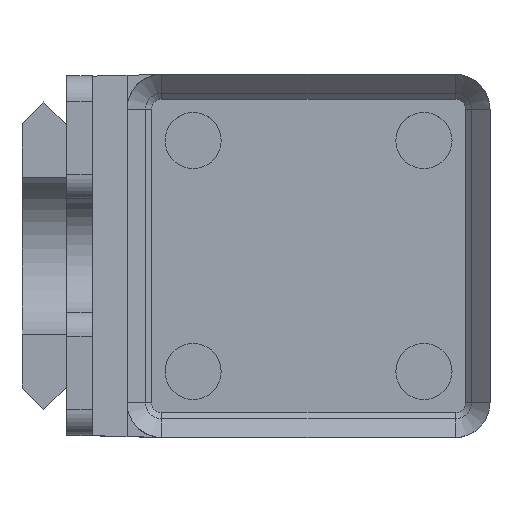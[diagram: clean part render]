
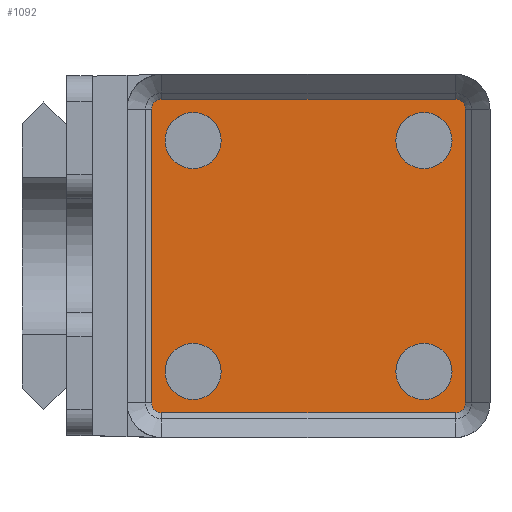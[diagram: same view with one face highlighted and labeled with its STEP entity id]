
A CAD part, top view. The second image highlights one B-rep face of the part: STEP entity #1092.
In plain terms, the highlighted planar face has unit normal (0, 0, 1).
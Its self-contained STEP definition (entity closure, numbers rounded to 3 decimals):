
#23=FACE_BOUND('',#151,.T.);
#24=FACE_BOUND('',#152,.T.);
#25=FACE_BOUND('',#153,.T.);
#26=FACE_BOUND('',#154,.T.);
#32=PLANE('',#1184);
#80=FACE_OUTER_BOUND('',#150,.T.);
#150=EDGE_LOOP('',(#768,#769,#770,#771,#772,#773,#774,#775));
#151=EDGE_LOOP('',(#776));
#152=EDGE_LOOP('',(#777));
#153=EDGE_LOOP('',(#778));
#154=EDGE_LOOP('',(#779));
#221=LINE('',#1657,#338);
#222=LINE('',#1661,#339);
#223=LINE('',#1665,#340);
#224=LINE('',#1668,#341);
#338=VECTOR('',#1322,10.);
#339=VECTOR('',#1325,10.);
#340=VECTOR('',#1328,10.);
#341=VECTOR('',#1331,10.);
#452=CIRCLE('',#1170,3.25);
#454=CIRCLE('',#1174,3.25);
#456=CIRCLE('',#1178,3.25);
#458=CIRCLE('',#1182,3.25);
#459=CIRCLE('',#1185,1.154);
#460=CIRCLE('',#1186,1.154);
#461=CIRCLE('',#1187,1.154);
#462=CIRCLE('',#1188,1.154);
#494=VERTEX_POINT('',#1627);
#496=VERTEX_POINT('',#1634);
#498=VERTEX_POINT('',#1641);
#500=VERTEX_POINT('',#1648);
#501=VERTEX_POINT('',#1653);
#502=VERTEX_POINT('',#1654);
#503=VERTEX_POINT('',#1656);
#504=VERTEX_POINT('',#1658);
#505=VERTEX_POINT('',#1660);
#506=VERTEX_POINT('',#1662);
#507=VERTEX_POINT('',#1664);
#508=VERTEX_POINT('',#1666);
#591=EDGE_CURVE('',#494,#494,#452,.T.);
#594=EDGE_CURVE('',#496,#496,#454,.T.);
#597=EDGE_CURVE('',#498,#498,#456,.T.);
#600=EDGE_CURVE('',#500,#500,#458,.T.);
#601=EDGE_CURVE('',#501,#502,#459,.F.);
#602=EDGE_CURVE('',#502,#503,#221,.F.);
#603=EDGE_CURVE('',#503,#504,#460,.F.);
#604=EDGE_CURVE('',#504,#505,#222,.F.);
#605=EDGE_CURVE('',#505,#506,#461,.F.);
#606=EDGE_CURVE('',#506,#507,#223,.F.);
#607=EDGE_CURVE('',#507,#508,#462,.F.);
#608=EDGE_CURVE('',#508,#501,#224,.F.);
#768=ORIENTED_EDGE('',*,*,#601,.T.);
#769=ORIENTED_EDGE('',*,*,#602,.T.);
#770=ORIENTED_EDGE('',*,*,#603,.T.);
#771=ORIENTED_EDGE('',*,*,#604,.T.);
#772=ORIENTED_EDGE('',*,*,#605,.T.);
#773=ORIENTED_EDGE('',*,*,#606,.T.);
#774=ORIENTED_EDGE('',*,*,#607,.T.);
#775=ORIENTED_EDGE('',*,*,#608,.T.);
#776=ORIENTED_EDGE('',*,*,#591,.T.);
#777=ORIENTED_EDGE('',*,*,#594,.T.);
#778=ORIENTED_EDGE('',*,*,#597,.T.);
#779=ORIENTED_EDGE('',*,*,#600,.T.);
#1092=ADVANCED_FACE('',(#80,#23,#24,#25,#26),#32,.F.);
#1170=AXIS2_PLACEMENT_3D('',#1629,#1287,#1288);
#1174=AXIS2_PLACEMENT_3D('',#1636,#1296,#1297);
#1178=AXIS2_PLACEMENT_3D('',#1643,#1305,#1306);
#1182=AXIS2_PLACEMENT_3D('',#1650,#1314,#1315);
#1184=AXIS2_PLACEMENT_3D('',#1652,#1318,#1319);
#1185=AXIS2_PLACEMENT_3D('',#1655,#1320,#1321);
#1186=AXIS2_PLACEMENT_3D('',#1659,#1323,#1324);
#1187=AXIS2_PLACEMENT_3D('',#1663,#1326,#1327);
#1188=AXIS2_PLACEMENT_3D('',#1667,#1329,#1330);
#1287=DIRECTION('center_axis',(0.,0.,-1.));
#1288=DIRECTION('ref_axis',(-1.,0.,0.));
#1296=DIRECTION('center_axis',(0.,0.,-1.));
#1297=DIRECTION('ref_axis',(-1.,0.,0.));
#1305=DIRECTION('center_axis',(0.,0.,-1.));
#1306=DIRECTION('ref_axis',(-1.,0.,0.));
#1314=DIRECTION('center_axis',(0.,0.,-1.));
#1315=DIRECTION('ref_axis',(-1.,0.,0.));
#1318=DIRECTION('center_axis',(0.,0.,-1.));
#1319=DIRECTION('ref_axis',(1.,0.,0.));
#1320=DIRECTION('center_axis',(0.,0.,
-1.));
#1321=DIRECTION('ref_axis',(0.,-1.,0.));
#1322=DIRECTION('',(-1.,0.,0.));
#1323=DIRECTION('center_axis',(0.,0.,
-1.));
#1324=DIRECTION('ref_axis',(1.,0.,0.));
#1325=DIRECTION('',(0.,-1.,0.));
#1326=DIRECTION('center_axis',(0.,0.,
-1.));
#1327=DIRECTION('ref_axis',(0.,1.,0.));
#1328=DIRECTION('',(1.,0.,0.));
#1329=DIRECTION('center_axis',(0.,0.,
-1.));
#1330=DIRECTION('ref_axis',(-1.,0.,0.));
#1331=DIRECTION('',(0.,1.,0.));
#1627=CARTESIAN_POINT('',(140.754,-13.354,-201.724));
#1629=CARTESIAN_POINT('Origin',(137.504,-13.354,-201.724));
#1634=CARTESIAN_POINT('',(140.754,13.354,-201.724));
#1636=CARTESIAN_POINT('Origin',(137.504,13.354,-201.724));
#1641=CARTESIAN_POINT('',(114.046,13.354,-201.724));
#1643=CARTESIAN_POINT('Origin',(110.796,13.354,-201.724));
#1648=CARTESIAN_POINT('',(114.046,-13.354,-201.724));
#1650=CARTESIAN_POINT('Origin',(110.796,-13.354,-201.724));
#1652=CARTESIAN_POINT('Origin',(120.65,0.,-201.724));
#1653=CARTESIAN_POINT('',(105.996,-17.,-201.724));
#1654=CARTESIAN_POINT('',(107.15,-18.154,-201.724));
#1655=CARTESIAN_POINT('Origin',(107.15,-17.,-201.724));
#1656=CARTESIAN_POINT('',(141.15,-18.154,-201.724));
#1657=CARTESIAN_POINT('',(132.65,-18.154,-201.724));
#1658=CARTESIAN_POINT('',(142.304,-17.,-201.724));
#1659=CARTESIAN_POINT('Origin',(141.15,-17.,-201.724));
#1660=CARTESIAN_POINT('',(142.304,17.,-201.724));
#1661=CARTESIAN_POINT('',(142.304,8.5,-201.724));
#1662=CARTESIAN_POINT('',(141.15,18.154,-201.724));
#1663=CARTESIAN_POINT('Origin',(141.15,17.,-201.724));
#1664=CARTESIAN_POINT('',(107.15,18.154,-201.724));
#1665=CARTESIAN_POINT('',(115.65,18.154,-201.724));
#1666=CARTESIAN_POINT('',(105.996,17.,-201.724));
#1667=CARTESIAN_POINT('Origin',(107.15,17.,-201.724));
#1668=CARTESIAN_POINT('',(105.996,0.,-201.724));
